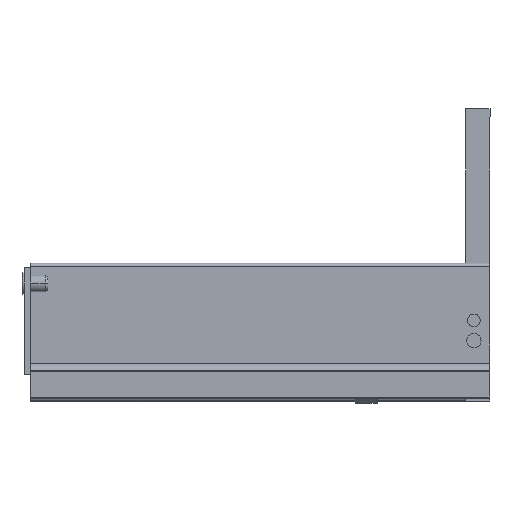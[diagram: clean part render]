
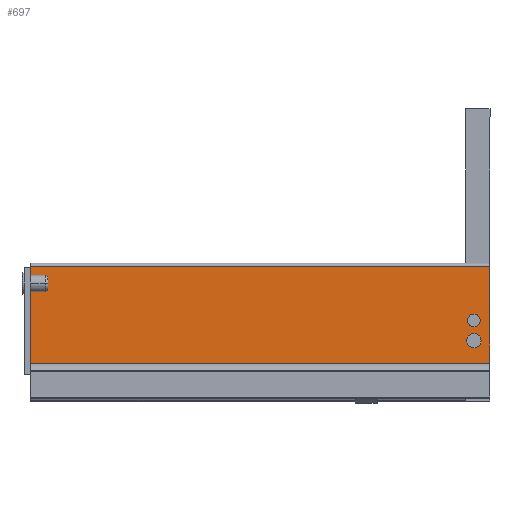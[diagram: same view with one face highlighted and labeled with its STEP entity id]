
A CAD part, left-side view. The second image highlights one B-rep face of the part: STEP entity #697.
In plain terms, the highlighted planar face has unit normal (-1, 0, 0).
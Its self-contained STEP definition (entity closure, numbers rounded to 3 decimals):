
#92 = CARTESIAN_POINT ( 'NONE',  ( -21.5, 10.4, 37.1 ) ) ;
#96 = VERTEX_POINT ( 'NONE', #92 ) ;
#102 = VERTEX_POINT ( 'NONE', #260 ) ;
#236 = VERTEX_POINT ( 'NONE', #445 ) ;
#260 = CARTESIAN_POINT ( 'NONE',  ( -21.5, 10.4, 28.9 ) ) ;
#276 = VERTEX_POINT ( 'NONE', #412 ) ;
#294 = VERTEX_POINT ( 'NONE', #372 ) ;
#295 = VERTEX_POINT ( 'NONE', #371 ) ;
#323 = VERTEX_POINT ( 'NONE', #487 ) ;
#324 = VERTEX_POINT ( 'NONE', #630 ) ;
#371 = CARTESIAN_POINT ( 'NONE',  ( -21.5, 0., 68. ) ) ;
#372 = CARTESIAN_POINT ( 'NONE',  ( -21.5, 0., 5.395 ) ) ;
#412 = CARTESIAN_POINT ( 'NONE',  ( -21.5, 297., 5.395 ) ) ;
#445 = CARTESIAN_POINT ( 'NONE',  ( -21.5, 297., 68. ) ) ;
#487 = CARTESIAN_POINT ( 'NONE',  ( -21.5, 10.4, 24.6 ) ) ;
#630 = CARTESIAN_POINT ( 'NONE',  ( -21.5, 10.4, 15.4 ) ) ;
#697 = ADVANCED_FACE ( 'NONE', ( #2309, #2308, #2303 ), #2070, .T. ) ;
#779 = CIRCLE ( 'NONE', #1993, 4.1 ) ;
#833 = CIRCLE ( 'NONE', #1643, 4.1 ) ;
#877 = VECTOR ( 'NONE', #1379, 1000. ) ;
#907 = VECTOR ( 'NONE', #1300, 1000. ) ;
#908 = LINE ( 'NONE', #1301, #907 ) ;
#911 = CIRCLE ( 'NONE', #1892, 4.6 ) ;
#948 = VECTOR ( 'NONE', #1122, 1000. ) ;
#949 = LINE ( 'NONE', #1121, #948 ) ;
#970 = LINE ( 'NONE', #1381, #877 ) ;
#1121 = CARTESIAN_POINT ( 'NONE',  ( -21.5, 297., 5.395 ) ) ;
#1122 = DIRECTION ( 'NONE',  ( 0., 0., -1. ) ) ;
#1201 = CARTESIAN_POINT ( 'NONE',  ( -21.5, 10.4, 20. ) ) ;
#1203 = DIRECTION ( 'NONE',  ( 1., 0., 0. ) ) ;
#1204 = DIRECTION ( 'NONE',  ( 0., 0., -1. ) ) ;
#1300 = DIRECTION ( 'NONE',  ( 0., -1., 0. ) ) ;
#1301 = CARTESIAN_POINT ( 'NONE',  ( -21.5, 297., 68. ) ) ;
#1353 = DIRECTION ( 'NONE',  ( 1., 0., 0. ) ) ;
#1356 = DIRECTION ( 'NONE',  ( 0., 0., -1. ) ) ;
#1379 = DIRECTION ( 'NONE',  ( 0., -1., 0. ) ) ;
#1381 = CARTESIAN_POINT ( 'NONE',  ( -21.5, 297., 5.395 ) ) ;
#1397 = CARTESIAN_POINT ( 'NONE',  ( -21.5, 0., 68. ) ) ;
#1398 = DIRECTION ( 'NONE',  ( 0., 0., -1. ) ) ;
#1476 = CARTESIAN_POINT ( 'NONE',  ( -21.5, 10.4, 33. ) ) ;
#1500 = CARTESIAN_POINT ( 'NONE',  ( -21.5, 10.4, 20. ) ) ;
#1503 = DIRECTION ( 'NONE',  ( 1., 0., 0. ) ) ;
#1504 = DIRECTION ( 'NONE',  ( 0., 0., -1. ) ) ;
#1569 = CARTESIAN_POINT ( 'NONE',  ( -21.5, 10.4, 33. ) ) ;
#1570 = DIRECTION ( 'NONE',  ( 0., 0., -1. ) ) ;
#1571 = DIRECTION ( 'NONE',  ( 1., 0., 0. ) ) ;
#1629 = AXIS2_PLACEMENT_3D ( 'NONE', #1201, #1203, #1204 ) ;
#1633 = AXIS2_PLACEMENT_3D ( 'NONE', #2069, #2041, #2071 ) ;
#1643 = AXIS2_PLACEMENT_3D ( 'NONE', #1476, #1353, #1356 ) ;
#1673 = EDGE_CURVE ( 'NONE', #324, #323, #2210, .T. ) ;
#1777 = EDGE_CURVE ( 'NONE', #295, #294, #2108, .T. ) ;
#1823 = EDGE_CURVE ( 'NONE', #276, #294, #970, .T. ) ;
#1866 = EDGE_CURVE ( 'NONE', #236, #276, #949, .T. ) ;
#1882 = EDGE_CURVE ( 'NONE', #323, #324, #911, .T. ) ;
#1885 = EDGE_CURVE ( 'NONE', #236, #295, #908, .T. ) ;
#1892 = AXIS2_PLACEMENT_3D ( 'NONE', #1500, #1503, #1504 ) ;
#1936 = EDGE_CURVE ( 'NONE', #102, #96, #833, .T. ) ;
#1993 = AXIS2_PLACEMENT_3D ( 'NONE', #1569, #1571, #1570 ) ;
#2011 = EDGE_CURVE ( 'NONE', #96, #102, #779, .T. ) ;
#2041 = DIRECTION ( 'NONE',  ( -1., 0., 0. ) ) ;
#2069 = CARTESIAN_POINT ( 'NONE',  ( -21.5, 297., 68. ) ) ;
#2070 = PLANE ( 'NONE',  #1633 ) ;
#2071 = DIRECTION ( 'NONE',  ( 0., 0., -1. ) ) ;
#2107 = VECTOR ( 'NONE', #1398, 1000. ) ;
#2108 = LINE ( 'NONE', #1397, #2107 ) ;
#2210 = CIRCLE ( 'NONE', #1629, 4.6 ) ;
#2303 = FACE_BOUND ( 'NONE', #2995, .T. ) ;
#2308 = FACE_BOUND ( 'NONE', #2976, .T. ) ;
#2309 = FACE_OUTER_BOUND ( 'NONE', #3003, .T. ) ;
#2587 = ORIENTED_EDGE ( 'NONE', *, *, #1885, .F. ) ;
#2588 = ORIENTED_EDGE ( 'NONE', *, *, #1866, .T. ) ;
#2589 = ORIENTED_EDGE ( 'NONE', *, *, #1823, .T. ) ;
#2590 = ORIENTED_EDGE ( 'NONE', *, *, #1777, .F. ) ;
#2591 = ORIENTED_EDGE ( 'NONE', *, *, #1936, .T. ) ;
#2592 = ORIENTED_EDGE ( 'NONE', *, *, #2011, .T. ) ;
#2593 = ORIENTED_EDGE ( 'NONE', *, *, #1673, .T. ) ;
#2594 = ORIENTED_EDGE ( 'NONE', *, *, #1882, .T. ) ;
#2976 = EDGE_LOOP ( 'NONE', ( #2591, #2592 ) ) ;
#2995 = EDGE_LOOP ( 'NONE', ( #2593, #2594 ) ) ;
#3003 = EDGE_LOOP ( 'NONE', ( #2587, #2588, #2589, #2590 ) ) ;
